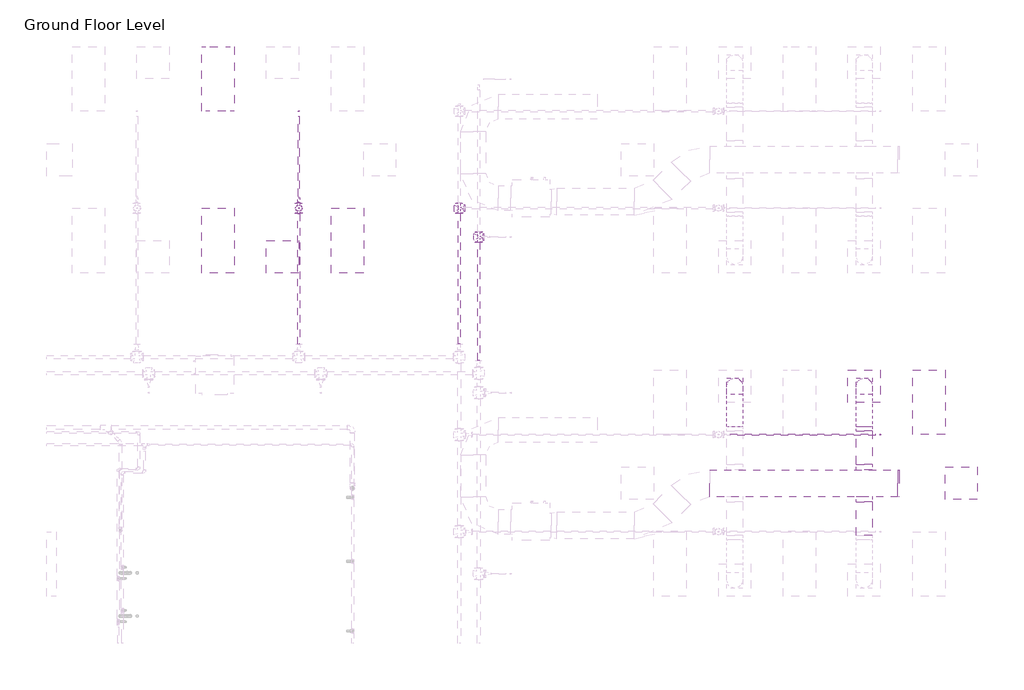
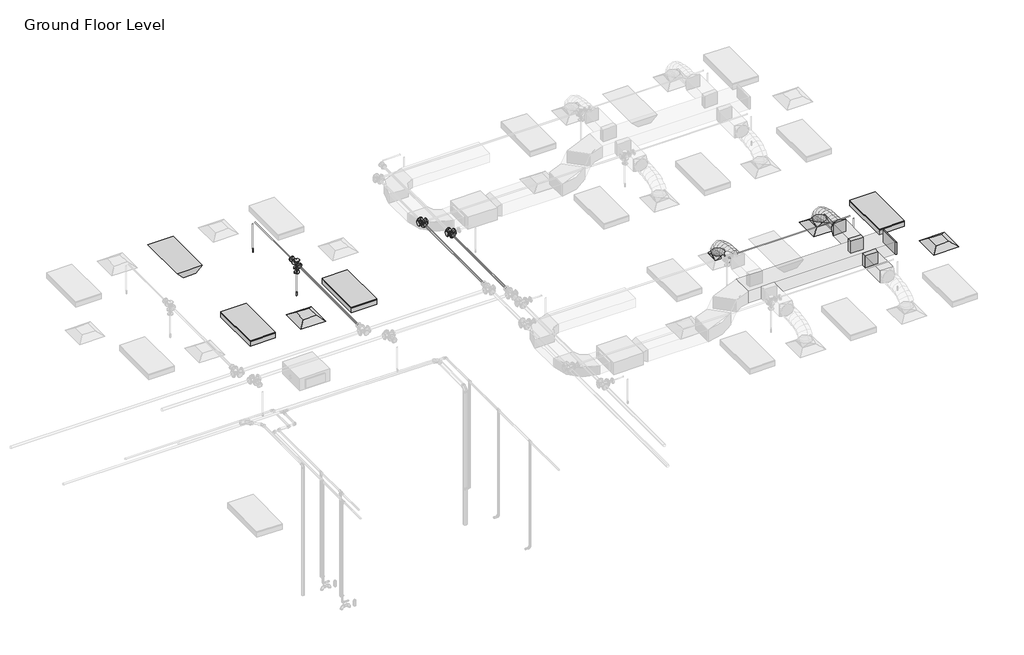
# One storey, part 63 of 66: 8 pipe segments, 6 duct fittings, 5 duct segments, 5 pipe fittings, 4 light fixtures, 3 air terminals, 3 fire suppression terminals.
"""IFC4 building model written with IfcOpenShell, lengths in millimetres."""

from ifc_helpers import new_model, si_unit, point, frame, frame_2d, origin, place, context, project, spatial, polyline, circle_curve, ellipse_curve, trimmed, segment, composite_curve, outline, extrude, transform, mapped, element, save
from ifc_brep_helpers import plane_surface, cylinder_surface, advanced_brep
from components import m_return_diffuser_600_x_600_face_300_x_300_connection_ff221211, m_rectangular_endcap_standard_72d4d00d, m_rectangular_takeoff_standard_cb0ccb98, m_rectangular_takeoff_standard_2be5eba1, m_rectangular_to_round_transition_angle_45_degree_641efff0, m_sprinkler_dry_pendent_hosted_15_mm_dry_pendent_9bda8e11, m_emergency_recessed_lighting_fixture_600x1200_277_5b10b25d, m_troffer_light_parabolic_rectangular1_0600x1200mm_4_lamp_86473d4a, m_reducer_flanged_cs_class_150_standard_d42b2106, m_tee_round_base_flanged_cs_class_150_standard_7e5987a1

model = new_model("IFC4")

# Units and contexts
model_context = context("Model", 3, world=origin())
ifc_project = project(units=[si_unit("LENGTHUNIT", "METRE", prefix="MILLI")], contexts=[model_context])

# Site, building, storey
site = spatial("IfcSite", under=ifc_project)
building = spatial("IfcBuilding", under=site)
storey = spatial("IfcBuildingStorey", under=building, Name="Ground Floor Level", Elevation=900.0)

# Air terminals
placement = place(None, origin())
m_return_diffuser_600_x_600_face_300_x_300_connection_shape = m_return_diffuser_600_x_600_face_300_x_300_connection_ff221211(model_context)
element("IfcAirTerminal", 1, ObjectType="M_Return Diffuser : 600 x 600 Face 300 x 300 Connection", at=placement, inside=storey, context=model_context, shape_type="MappedRepresentation", body=[
    mapped(m_return_diffuser_600_x_600_face_300_x_300_connection_shape, transform((14942.7672395, 12735.2153534, 3650.0), x_axis=(1.0, 0.0, 0.0), y_axis=(0.0, 1.0, 0.0), z_axis=(0.0, 0.0, 1.0))),
])
element("IfcAirTerminal", 2, ObjectType="M_Supply Diffuser : 600 x 600 Face 300 x 300 Connection", at=placement, inside=storey, context=model_context, shape_type="MappedRepresentation", body=[
    mapped(m_return_diffuser_600_x_600_face_300_x_300_connection_shape, transform((13142.7672395, 14535.2153534, 3650.0), x_axis=(1.0, 0.0, 0.0), y_axis=(0.0, 1.0, 0.0), z_axis=(0.0, 0.0, 1.0))),
])
element("IfcAirTerminal", 3, ObjectType="M_Supply Diffuser : 600 x 600 Face 300 x 300 Connection", at=placement, inside=storey, context=model_context, shape_type="MappedRepresentation", body=[
    mapped(m_return_diffuser_600_x_600_face_300_x_300_connection_shape, transform((2362.7672395, 16935.2153534, 3650.0), x_axis=(1.0, 0.0, 0.0), y_axis=(0.0, 1.0, 0.0), z_axis=(0.0, 0.0, 1.0))),
])

# Duct fittings
m_rectangular_endcap_standard_shape = m_rectangular_endcap_standard_72d4d00d(model_context)
element("IfcDuctFitting", 4, ObjectType="M_Rectangular Endcap : Standard", at=placement, inside=storey, context=model_context, shape_type="MappedRepresentation", body=[
    mapped(m_rectangular_endcap_standard_shape, transform((13766.7301365, 12735.2153534, 4100.0), x_axis=(1.0, 0.0, 0.0), y_axis=(0.0, 1.0, 0.0), z_axis=(0.0, 0.0, 1.0))),
])
m_rectangular_takeoff_standard_shape = m_rectangular_takeoff_standard_cb0ccb98(model_context)
element("IfcDuctFitting", 5, ObjectType="M_Rectangular Takeoff : Standard", at=placement, inside=storey, context=model_context, shape_type="MappedRepresentation", body=[
    mapped(m_rectangular_takeoff_standard_shape, transform((13142.7672395, 12985.2153534, 4100.0), x_axis=(0.0, 1.0, 0.0), y_axis=(1.0, 0.0, 0.0), z_axis=(0.0, 0.0, -1.0))),
])
m_rectangular_takeoff_standard_2_shape = m_rectangular_takeoff_standard_2be5eba1(model_context)
element("IfcDuctFitting", 6, ObjectType="M_Rectangular Takeoff : Standard", at=placement, inside=storey, context=model_context, shape_type="MappedRepresentation", body=[
    mapped(m_rectangular_takeoff_standard_2_shape, transform((13142.7672395, 12485.2153534, 4100.0), x_axis=(0.0, -1.0, 0.0), y_axis=(-1.0, 0.0, 0.0), z_axis=(0.0, 0.0, -1.0))),
])
m_rectangular_to_round_transition_angle_45_degree_shape = m_rectangular_to_round_transition_angle_45_degree_641efff0(model_context)
element("IfcDuctFitting", 7, ObjectType="M_Rectangular to Round Transition - Angle : 45 Degree", at=placement, inside=storey, context=model_context, shape_type="MappedRepresentation", body=[
    mapped(m_rectangular_to_round_transition_angle_45_degree_shape, transform((10742.7672395, 14535.2153534, 3751.6), x_axis=(0.0, 0.0, 1.0), y_axis=(-1.0, 0.0, 0.0), z_axis=(0.0, -1.0, 0.0))),
])
element("IfcDuctFitting", 8, ObjectType="M_Rectangular to Round Transition - Angle : 45 Degree", at=placement, inside=storey, context=model_context, shape_type="MappedRepresentation", body=[
    mapped(m_rectangular_to_round_transition_angle_45_degree_shape, transform((13142.7672395, 14535.2153534, 3751.6), x_axis=(0.0, 0.0, 1.0), y_axis=(-1.0, 0.0, 0.0), z_axis=(0.0, -1.0, 0.0))),
])
element("IfcDuctFitting", 9, ObjectType="M_Rectangular to Round Transition - Angle : 45 Degree", at=placement, inside=storey, context=model_context, shape_type="MappedRepresentation", body=[
    mapped(m_rectangular_to_round_transition_angle_45_degree_shape, transform((13142.7672395, 13707.8794221, 4100.0), x_axis=(0.0, 1.0, 0.0), y_axis=(-1.0, 0.0, 0.0), z_axis=(0.0, 0.0, 1.0))),
])

# Duct segments
element("IfcDuctSegment", 10, ObjectType="Flex - Round", at=placement, inside=storey, context=model_context, shape_type="AdvancedBrep", body=[
    advanced_brep(
    [(10892.7672395, 14535.2153534, 3826.6), (10742.7672395, 14385.2153534, 3826.6), (10592.7672395, 14535.2153534, 3826.6), (10742.7672395, 14685.2153534, 3826.6), (10892.7672395, 14535.2153534, 3857.9377114), (10742.7672395, 14385.2153534, 3832.2944892), (10592.7672395, 14535.2153534, 3857.9377114), (10742.7672395, 14685.2153534, 3883.5809337), (10892.7672395, 14518.1994208, 3906.2505728), (10742.7672395, 14384.4614419, 3834.435049), (10592.7672395, 14518.1994208, 3906.2505728), (10742.7672395, 14651.9373998, 3978.0660967), (10892.7672395, 14471.0155405, 3968.7113131), (10742.7672395, 14366.8096412, 3857.8020236), (10592.7672395, 14471.0155405, 3968.7113131), (10742.7672395, 14575.2214397, 4079.6206026), (10892.7672395, 14399.4595883, 4016.0700639), (10742.7672395, 14330.5255327, 3881.8163788), (10592.7672395, 14399.4595883, 4016.0700639), (10742.7672395, 14468.3936439, 4150.3237489), (10892.7672395, 14309.3274403, 4050.4146682), (10742.7672395, 14265.7666771, 3906.4925606), (10592.7672395, 14309.3274403, 4050.4146682), (10742.7672395, 14352.8882035, 4194.3367758), (10892.7672395, 14206.4149725, 4073.8329691), (10742.7672395, 14179.8540485, 3926.0424542), (10592.7672395, 14206.4149725, 4073.8329691), (10742.7672395, 14232.9758965, 4221.6234841), (10892.7672395, 14096.5180607, 4088.4128097), (10742.7672395, 14081.3671584, 3939.1085462), (10592.7672395, 14096.5180607, 4088.4128097), (10742.7672395, 14111.6689631, 4237.7170733), (10892.7672395, 13985.4325811, 4096.242033), (10742.7672395, 13977.9272529, 3946.398915), (10592.7672395, 13985.4325811, 4096.242033), (10742.7672395, 13992.9379093, 4246.085151), (10892.7672395, 13878.9544096, 4099.4084821), (10742.7672395, 13876.2629165, 3949.4222102), (10592.7672395, 13878.9544096, 4099.4084821), (10742.7672395, 13881.6459027, 4249.394754), (10892.7672395, 13782.8794221, 4100.0), (10742.7672395, 13783.8029299, 4249.9971571), (10592.7672395, 13782.8794221, 4100.0), (10742.7672395, 13781.9559143, 3950.0028429)],
    [
        (0, 1, circle_curve(frame((10742.7672395, 14535.2153534, 3826.6), z_axis=(0.0, 0.0, -1.0), x_axis=(1.0, 0.0, 0.0)), 150.0)),
        (1, 2, circle_curve(frame((10742.7672395, 14535.2153534, 3826.6), z_axis=(0.0, 0.0, -1.0), x_axis=(1.0, 0.0, 0.0)), 150.0)),
        (2, 3, circle_curve(frame((10742.7672395, 14535.2153534, 3826.6), z_axis=(0.0, 0.0, -1.0), x_axis=(1.0, 0.0, 0.0)), 150.0)),
        (3, 0, circle_curve(frame((10742.7672395, 14535.2153534, 3826.6), z_axis=(0.0, 0.0, -1.0), x_axis=(1.0, 0.0, 0.0)), 150.0)),
        (0, 4),
        (4, 5, ellipse_curve(frame((10742.7672395, 14535.2153534, 3857.9377114), z_axis=(0.0, 0.16851014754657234, -0.9856999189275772), x_axis=(0.0, -0.9856999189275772, -0.1685101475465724)), 152.176131, 150.0)),
        (5, 1),
        (5, 6, ellipse_curve(frame((10742.7672395, 14535.2153534, 3857.9377114), z_axis=(0.0, 0.16851014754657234, -0.9856999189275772), x_axis=(0.0, -0.9856999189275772, -0.1685101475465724)), 152.176131, 150.0)),
        (6, 2),
        (6, 7, ellipse_curve(frame((10742.7672395, 14535.2153534, 3857.9377114), z_axis=(0.0, 0.16851014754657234, -0.9856999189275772), x_axis=(0.0, -0.9856999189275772, -0.1685101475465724)), 152.176131, 150.0)),
        (7, 3),
        (7, 4, ellipse_curve(frame((10742.7672395, 14535.2153534, 3857.9377114), z_axis=(0.0, 0.16851014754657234, -0.9856999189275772), x_axis=(0.0, -0.9856999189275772, -0.1685101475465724)), 152.176131, 150.0)),
        (4, 8),
        (8, 9, ellipse_curve(frame((10742.7672395, 14518.1994208, 3906.2505728), z_axis=(0.0, 0.47309225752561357, -0.8810128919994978), x_axis=(0.0, -0.8810128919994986, -0.47309225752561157)), 151.8002519, 150.0)),
        (9, 5),
        (9, 10, ellipse_curve(frame((10742.7672395, 14518.1994208, 3906.2505728), z_axis=(0.0, 0.47309225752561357, -0.8810128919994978), x_axis=(0.0, -0.8810128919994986, -0.47309225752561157)), 151.8002519, 150.0)),
        (10, 6),
        (10, 11, ellipse_curve(frame((10742.7672395, 14518.1994208, 3906.2505728), z_axis=(0.0, 0.47309225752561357, -0.8810128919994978), x_axis=(0.0, -0.8810128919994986, -0.47309225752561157)), 151.8002519, 150.0)),
        (11, 7),
        (11, 8, ellipse_curve(frame((10742.7672395, 14518.1994208, 3906.2505728), z_axis=(0.0, 0.47309225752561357, -0.8810128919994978), x_axis=(0.0, -0.8810128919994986, -0.47309225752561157)), 151.8002519, 150.0)),
        (8, 12),
        (12, 13, ellipse_curve(frame((10742.7672395, 14471.0155405, 3968.7113131), z_axis=(0.0, 0.7287877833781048, -0.6847396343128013), x_axis=(0.0, -0.6847396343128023, -0.7287877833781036)), 152.1832446, 150.0)),
        (13, 9),
        (13, 14, ellipse_curve(frame((10742.7672395, 14471.0155405, 3968.7113131), z_axis=(0.0, 0.7287877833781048, -0.6847396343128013), x_axis=(0.0, -0.6847396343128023, -0.7287877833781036)), 152.1832446, 150.0)),
        (14, 10),
        (14, 15, ellipse_curve(frame((10742.7672395, 14471.0155405, 3968.7113131), z_axis=(0.0, 0.7287877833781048, -0.6847396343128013), x_axis=(0.0, -0.6847396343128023, -0.7287877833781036)), 152.1832446, 150.0)),
        (15, 11),
        (15, 12, ellipse_curve(frame((10742.7672395, 14471.0155405, 3968.7113131), z_axis=(0.0, 0.7287877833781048, -0.6847396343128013), x_axis=(0.0, -0.6847396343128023, -0.7287877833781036)), 152.1832446, 150.0)),
        (12, 16),
        (16, 17, ellipse_curve(frame((10742.7672395, 14399.4595883, 4016.0700639), z_axis=(0.0, 0.8895859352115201, -0.45676784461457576), x_axis=(0.0, -0.45676784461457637, -0.8895859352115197)), 150.91705, 150.0)),
        (17, 13),
        (17, 18, ellipse_curve(frame((10742.7672395, 14399.4595883, 4016.0700639), z_axis=(0.0, 0.8895859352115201, -0.45676784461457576), x_axis=(0.0, -0.45676784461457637, -0.8895859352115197)), 150.91705, 150.0)),
        (18, 14),
        (18, 19, ellipse_curve(frame((10742.7672395, 14399.4595883, 4016.0700639), z_axis=(0.0, 0.8895859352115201, -0.45676784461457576), x_axis=(0.0, -0.45676784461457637, -0.8895859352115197)), 150.91705, 150.0)),
        (19, 15),
        (19, 16, ellipse_curve(frame((10742.7672395, 14399.4595883, 4016.0700639), z_axis=(0.0, 0.8895859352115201, -0.45676784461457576), x_axis=(0.0, -0.45676784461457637, -0.8895859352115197)), 150.91705, 150.0)),
        (16, 20),
        (20, 21, ellipse_curve(frame((10742.7672395, 14309.3274403, 4050.4146682), z_axis=(0.0, 0.9571203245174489, -0.2896906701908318), x_axis=(0.0, -0.28969067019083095, -0.9571203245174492)), 150.369921, 150.0)),
        (21, 17),
        (21, 22, ellipse_curve(frame((10742.7672395, 14309.3274403, 4050.4146682), z_axis=(0.0, 0.9571203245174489, -0.2896906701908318), x_axis=(0.0, -0.28969067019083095, -0.9571203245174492)), 150.369921, 150.0)),
        (22, 18),
        (22, 23, ellipse_curve(frame((10742.7672395, 14309.3274403, 4050.4146682), z_axis=(0.0, 0.9571203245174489, -0.2896906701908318), x_axis=(0.0, -0.28969067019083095, -0.9571203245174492)), 150.369921, 150.0)),
        (23, 19),
        (23, 20, ellipse_curve(frame((10742.7672395, 14309.3274403, 4050.4146682), z_axis=(0.0, 0.9571203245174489, -0.2896906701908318), x_axis=(0.0, -0.28969067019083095, -0.9571203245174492)), 150.369921, 150.0)),
        (20, 24),
        (24, 25, ellipse_curve(frame((10742.7672395, 14206.4149725, 4073.8329691), z_axis=(0.0, 0.9842313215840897, -0.17688613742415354), x_axis=(0.0, -0.1768861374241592, -0.9842313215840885)), 150.1583131, 150.0)),
        (25, 21),
        (25, 26, ellipse_curve(frame((10742.7672395, 14206.4149725, 4073.8329691), z_axis=(0.0, 0.9842313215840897, -0.17688613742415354), x_axis=(0.0, -0.1768861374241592, -0.9842313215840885)), 150.1583131, 150.0)),
        (26, 22),
        (26, 27, ellipse_curve(frame((10742.7672395, 14206.4149725, 4073.8329691), z_axis=(0.0, 0.9842313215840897, -0.17688613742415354), x_axis=(0.0, -0.1768861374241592, -0.9842313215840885)), 150.1583131, 150.0)),
        (27, 23),
        (27, 24, ellipse_curve(frame((10742.7672395, 14206.4149725, 4073.8329691), z_axis=(0.0, 0.9842313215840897, -0.17688613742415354), x_axis=(0.0, -0.1768861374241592, -0.9842313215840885)), 150.1583131, 150.0)),
        (24, 28),
        (28, 29, ellipse_curve(frame((10742.7672395, 14096.5180607, 4088.4128097), z_axis=(0.0, 0.9948906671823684, -0.10095821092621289), x_axis=(0.0, -0.10095821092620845, -0.9948906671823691)), 150.0710264, 150.0)),
        (29, 25),
        (29, 30, ellipse_curve(frame((10742.7672395, 14096.5180607, 4088.4128097), z_axis=(0.0, 0.9948906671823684, -0.10095821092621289), x_axis=(0.0, -0.10095821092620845, -0.9948906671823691)), 150.0710264, 150.0)),
        (30, 26),
        (30, 31, ellipse_curve(frame((10742.7672395, 14096.5180607, 4088.4128097), z_axis=(0.0, 0.9948906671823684, -0.10095821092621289), x_axis=(0.0, -0.10095821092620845, -0.9948906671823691)), 150.0710264, 150.0)),
        (31, 27),
        (31, 28, ellipse_curve(frame((10742.7672395, 14096.5180607, 4088.4128097), z_axis=(0.0, 0.9948906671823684, -0.10095821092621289), x_axis=(0.0, -0.10095821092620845, -0.9948906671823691)), 150.0710264, 150.0)),
        (28, 32),
        (32, 33, ellipse_curve(frame((10742.7672395, 13985.4325811, 4096.242033), z_axis=(0.0, 0.9987479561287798, -0.050025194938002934), x_axis=(0.0, -0.05002519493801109, -0.9987479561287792)), 150.0309634, 150.0)),
        (33, 29),
        (33, 34, ellipse_curve(frame((10742.7672395, 13985.4325811, 4096.242033), z_axis=(0.0, 0.9987479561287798, -0.050025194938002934), x_axis=(0.0, -0.05002519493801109, -0.9987479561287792)), 150.0309634, 150.0)),
        (34, 30),
        (34, 35, ellipse_curve(frame((10742.7672395, 13985.4325811, 4096.242033), z_axis=(0.0, 0.9987479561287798, -0.050025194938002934), x_axis=(0.0, -0.05002519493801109, -0.9987479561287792)), 150.0309634, 150.0)),
        (35, 31),
        (35, 32, ellipse_curve(frame((10742.7672395, 13985.4325811, 4096.242033), z_axis=(0.0, 0.9987479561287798, -0.050025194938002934), x_axis=(0.0, -0.05002519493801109, -0.9987479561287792)), 150.0309634, 150.0)),
        (32, 36),
        (36, 37, ellipse_curve(frame((10742.7672395, 13878.9544096, 4099.4084821), z_axis=(0.0, 0.9998390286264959, -0.017942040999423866), x_axis=(0.0, -0.017942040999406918, -0.9998390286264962)), 150.0104193, 150.0)),
        (37, 33),
        (37, 38, ellipse_curve(frame((10742.7672395, 13878.9544096, 4099.4084821), z_axis=(0.0, 0.9998390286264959, -0.017942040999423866), x_axis=(0.0, -0.017942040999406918, -0.9998390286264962)), 150.0104193, 150.0)),
        (38, 34),
        (38, 39, ellipse_curve(frame((10742.7672395, 13878.9544096, 4099.4084821), z_axis=(0.0, 0.9998390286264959, -0.017942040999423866), x_axis=(0.0, -0.017942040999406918, -0.9998390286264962)), 150.0104193, 150.0)),
        (39, 35),
        (39, 36, ellipse_curve(frame((10742.7672395, 13878.9544096, 4099.4084821), z_axis=(0.0, 0.9998390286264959, -0.017942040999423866), x_axis=(0.0, -0.017942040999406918, -0.9998390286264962)), 150.0104193, 150.0)),
        (40, 41, circle_curve(frame((10742.7672395, 13782.8794221, 4100.0), z_axis=(0.0, -0.9999810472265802, 0.006156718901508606), x_axis=(1.0, 0.0, 0.0)), 150.0)),
        (41, 42, circle_curve(frame((10742.7672395, 13782.8794221, 4100.0), z_axis=(0.0, -0.9999810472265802, 0.006156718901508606), x_axis=(1.0, 0.0, 0.0)), 150.0)),
        (42, 43, circle_curve(frame((10742.7672395, 13782.8794221, 4100.0), z_axis=(0.0, -0.9999810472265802, 0.006156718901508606), x_axis=(1.0, 0.0, 0.0)), 150.0)),
        (43, 40, circle_curve(frame((10742.7672395, 13782.8794221, 4100.0), z_axis=(0.0, -0.9999810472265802, 0.006156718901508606), x_axis=(1.0, 0.0, 0.0)), 150.0)),
        (36, 40),
        (43, 37),
        (42, 38),
        (41, 39),
    ],
    [
        plane_surface(frame((10742.7672395, 14385.2153534, 3826.6), z_axis=(0.0, 0.0, -1.0), x_axis=(1.0, 0.0, 0.0))),
        cylinder_surface(frame((10742.7672395, 14535.2153534, 3826.6), z_axis=(0.0, 0.0, -1.0), x_axis=(1.0, 0.0, 0.0)), 150.0),
        cylinder_surface(frame((10742.7672395, 14535.2153534, 3857.9377114), z_axis=(0.0, 0.3322008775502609, -0.9432086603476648), x_axis=(1.0, 0.0, 0.0)), 150.0),
        cylinder_surface(frame((10742.7672395, 14518.1994208, 3906.2505728), z_axis=(0.0, 0.6027625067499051, -0.7979206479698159), x_axis=(1.0, 0.0, 0.0)), 150.0),
        cylinder_surface(frame((10742.7672395, 14471.0155405, 3968.7113131), z_axis=(0.0, 0.833902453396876, -0.5519118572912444), x_axis=(1.0, 0.0, 0.0)), 150.0),
        cylinder_surface(frame((10742.7672395, 14399.4595883, 4016.0700639), z_axis=(0.0, 0.9344582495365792, -0.35607271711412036), x_axis=(1.0, 0.0, 0.0)), 150.0),
        cylinder_surface(frame((10742.7672395, 14309.3274403, 4050.4146682), z_axis=(0.0, 0.9750732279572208, -0.22188330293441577), x_axis=(1.0, 0.0, 0.0)), 150.0),
        cylinder_surface(frame((10742.7672395, 14206.4149725, 4073.8329691), z_axis=(0.0, 0.9913140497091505, -0.131515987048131), x_axis=(1.0, 0.0, 0.0)), 150.0),
        cylinder_surface(frame((10742.7672395, 14096.5180607, 4088.4128097), z_axis=(0.0, 0.9975255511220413, -0.07030487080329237), x_axis=(1.0, 0.0, 0.0)), 150.0),
        cylinder_surface(frame((10742.7672395, 13985.4325811, 4096.242033), z_axis=(0.0, 0.9995581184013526, -0.029724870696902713), x_axis=(1.0, 0.0, 0.0)), 150.0),
        plane_surface(frame((10742.7672395, 13781.9559143, 3950.0028429), z_axis=(0.0, -0.9999810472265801, 0.0061567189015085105), x_axis=(1.0, 0.0, 0.0))),
        cylinder_surface(frame((10742.7672395, 13878.9544096, 4099.4084821), z_axis=(0.0, 0.9999810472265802, -0.006156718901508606), x_axis=(1.0, 0.0, 0.0)), 150.0),
    ],
    [
        (0, [[1, 2, 3, 4]]),
        (1, [[-1, 5, 6, 7]]),
        (1, [[-2, -7, 8, 9]]),
        (1, [[-3, -9, 10, 11]]),
        (1, [[-4, -11, 12, -5]]),
        (2, [[-6, 13, 14, 15]]),
        (2, [[-8, -15, 16, 17]]),
        (2, [[-10, -17, 18, 19]]),
        (2, [[-12, -19, 20, -13]]),
        (3, [[-14, 21, 22, 23]]),
        (3, [[-16, -23, 24, 25]]),
        (3, [[-18, -25, 26, 27]]),
        (3, [[-20, -27, 28, -21]]),
        (4, [[-22, 29, 30, 31]]),
        (4, [[-24, -31, 32, 33]]),
        (4, [[-26, -33, 34, 35]]),
        (4, [[-28, -35, 36, -29]]),
        (5, [[-30, 37, 38, 39]]),
        (5, [[-32, -39, 40, 41]]),
        (5, [[-34, -41, 42, 43]]),
        (5, [[-36, -43, 44, -37]]),
        (6, [[-38, 45, 46, 47]]),
        (6, [[-40, -47, 48, 49]]),
        (6, [[-42, -49, 50, 51]]),
        (6, [[-44, -51, 52, -45]]),
        (7, [[-46, 53, 54, 55]]),
        (7, [[-48, -55, 56, 57]]),
        (7, [[-50, -57, 58, 59]]),
        (7, [[-52, -59, 60, -53]]),
        (8, [[-54, 61, 62, 63]]),
        (8, [[-56, -63, 64, 65]]),
        (8, [[-58, -65, 66, 67]]),
        (8, [[-60, -67, 68, -61]]),
        (9, [[-62, 69, 70, 71]]),
        (9, [[-64, -71, 72, 73]]),
        (9, [[-66, -73, 74, 75]]),
        (9, [[-68, -75, 76, -69]]),
        (10, [[77, 78, 79, 80]]),
        (11, [[-70, 81, -80, 82]]),
        (11, [[-72, -82, -79, 83]]),
        (11, [[-74, -83, -78, 84]]),
        (11, [[-76, -84, -77, -81]]),
    ],
),
])
element("IfcDuctSegment", 11, ObjectType="Flex - Round", at=placement, inside=storey, context=model_context, shape_type="AdvancedBrep", body=[
    advanced_brep(
    [(13292.7672395, 14535.2153534, 3826.6), (13142.7672395, 14385.2153534, 3826.6), (12992.7672395, 14535.2153534, 3826.6), (13142.7672395, 14685.2153534, 3826.6), (13292.7672395, 14535.2153534, 3857.9377114), (13142.7672395, 14385.2153534, 3832.2944892), (12992.7672395, 14535.2153534, 3857.9377114), (13142.7672395, 14685.2153534, 3883.5809337), (13292.7672395, 14518.1994208, 3906.2505728), (13142.7672395, 14384.4614419, 3834.435049), (12992.7672395, 14518.1994208, 3906.2505728), (13142.7672395, 14651.9373998, 3978.0660967), (13292.7672395, 14471.0155405, 3968.7113131), (13142.7672395, 14366.8096412, 3857.8020236), (12992.7672395, 14471.0155405, 3968.7113131), (13142.7672395, 14575.2214397, 4079.6206026), (13292.7672395, 14399.4595883, 4016.0700639), (13142.7672395, 14330.5255327, 3881.8163788), (12992.7672395, 14399.4595883, 4016.0700639), (13142.7672395, 14468.3936439, 4150.3237489), (13292.7672395, 14309.3274403, 4050.4146682), (13142.7672395, 14265.7666771, 3906.4925606), (12992.7672395, 14309.3274403, 4050.4146682), (13142.7672395, 14352.8882035, 4194.3367758), (13292.7672395, 14206.4149725, 4073.8329691), (13142.7672395, 14179.8540485, 3926.0424542), (12992.7672395, 14206.4149725, 4073.8329691), (13142.7672395, 14232.9758965, 4221.6234841), (13292.7672395, 14096.5180607, 4088.4128097), (13142.7672395, 14081.3671584, 3939.1085462), (12992.7672395, 14096.5180607, 4088.4128097), (13142.7672395, 14111.6689631, 4237.7170733), (13292.7672395, 13985.4325811, 4096.242033), (13142.7672395, 13977.9272529, 3946.398915), (12992.7672395, 13985.4325811, 4096.242033), (13142.7672395, 13992.9379093, 4246.085151), (13292.7672395, 13878.9544096, 4099.4084821), (13142.7672395, 13876.2629165, 3949.4222102), (12992.7672395, 13878.9544096, 4099.4084821), (13142.7672395, 13881.6459027, 4249.394754), (13292.7672395, 13782.8794221, 4100.0), (13142.7672395, 13783.8029299, 4249.9971571), (12992.7672395, 13782.8794221, 4100.0), (13142.7672395, 13781.9559143, 3950.0028429)],
    [
        (0, 1, circle_curve(frame((13142.7672395, 14535.2153534, 3826.6), z_axis=(0.0, 0.0, -1.0), x_axis=(1.0, 0.0, 0.0)), 150.0)),
        (1, 2, circle_curve(frame((13142.7672395, 14535.2153534, 3826.6), z_axis=(0.0, 0.0, -1.0), x_axis=(1.0, 0.0, 0.0)), 150.0)),
        (2, 3, circle_curve(frame((13142.7672395, 14535.2153534, 3826.6), z_axis=(0.0, 0.0, -1.0), x_axis=(1.0, 0.0, 0.0)), 150.0)),
        (3, 0, circle_curve(frame((13142.7672395, 14535.2153534, 3826.6), z_axis=(0.0, 0.0, -1.0), x_axis=(1.0, 0.0, 0.0)), 150.0)),
        (0, 4),
        (4, 5, ellipse_curve(frame((13142.7672395, 14535.2153534, 3857.9377114), z_axis=(0.0, 0.16851014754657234, -0.9856999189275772), x_axis=(0.0, -0.9856999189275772, -0.1685101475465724)), 152.176131, 150.0)),
        (5, 1),
        (5, 6, ellipse_curve(frame((13142.7672395, 14535.2153534, 3857.9377114), z_axis=(0.0, 0.16851014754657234, -0.9856999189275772), x_axis=(0.0, -0.9856999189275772, -0.1685101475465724)), 152.176131, 150.0)),
        (6, 2),
        (6, 7, ellipse_curve(frame((13142.7672395, 14535.2153534, 3857.9377114), z_axis=(0.0, 0.16851014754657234, -0.9856999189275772), x_axis=(0.0, -0.9856999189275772, -0.1685101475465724)), 152.176131, 150.0)),
        (7, 3),
        (7, 4, ellipse_curve(frame((13142.7672395, 14535.2153534, 3857.9377114), z_axis=(0.0, 0.16851014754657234, -0.9856999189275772), x_axis=(0.0, -0.9856999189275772, -0.1685101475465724)), 152.176131, 150.0)),
        (4, 8),
        (8, 9, ellipse_curve(frame((13142.7672395, 14518.1994208, 3906.2505728), z_axis=(0.0, 0.47309225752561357, -0.8810128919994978), x_axis=(0.0, -0.8810128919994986, -0.47309225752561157)), 151.8002519, 150.0)),
        (9, 5),
        (9, 10, ellipse_curve(frame((13142.7672395, 14518.1994208, 3906.2505728), z_axis=(0.0, 0.47309225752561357, -0.8810128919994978), x_axis=(0.0, -0.8810128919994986, -0.47309225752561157)), 151.8002519, 150.0)),
        (10, 6),
        (10, 11, ellipse_curve(frame((13142.7672395, 14518.1994208, 3906.2505728), z_axis=(0.0, 0.47309225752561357, -0.8810128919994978), x_axis=(0.0, -0.8810128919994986, -0.47309225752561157)), 151.8002519, 150.0)),
        (11, 7),
        (11, 8, ellipse_curve(frame((13142.7672395, 14518.1994208, 3906.2505728), z_axis=(0.0, 0.47309225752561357, -0.8810128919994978), x_axis=(0.0, -0.8810128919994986, -0.47309225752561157)), 151.8002519, 150.0)),
        (8, 12),
        (12, 13, ellipse_curve(frame((13142.7672395, 14471.0155405, 3968.7113131), z_axis=(0.0, 0.7287877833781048, -0.6847396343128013), x_axis=(0.0, -0.6847396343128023, -0.7287877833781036)), 152.1832446, 150.0)),
        (13, 9),
        (13, 14, ellipse_curve(frame((13142.7672395, 14471.0155405, 3968.7113131), z_axis=(0.0, 0.7287877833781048, -0.6847396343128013), x_axis=(0.0, -0.6847396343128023, -0.7287877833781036)), 152.1832446, 150.0)),
        (14, 10),
        (14, 15, ellipse_curve(frame((13142.7672395, 14471.0155405, 3968.7113131), z_axis=(0.0, 0.7287877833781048, -0.6847396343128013), x_axis=(0.0, -0.6847396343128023, -0.7287877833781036)), 152.1832446, 150.0)),
        (15, 11),
        (15, 12, ellipse_curve(frame((13142.7672395, 14471.0155405, 3968.7113131), z_axis=(0.0, 0.7287877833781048, -0.6847396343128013), x_axis=(0.0, -0.6847396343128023, -0.7287877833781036)), 152.1832446, 150.0)),
        (12, 16),
        (16, 17, ellipse_curve(frame((13142.7672395, 14399.4595883, 4016.0700639), z_axis=(0.0, 0.8895859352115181, -0.4567678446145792), x_axis=(0.0, -0.4567678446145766, -0.8895859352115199)), 150.91705, 150.0)),
        (17, 13),
        (17, 18, ellipse_curve(frame((13142.7672395, 14399.4595883, 4016.0700639), z_axis=(0.0, 0.8895859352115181, -0.4567678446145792), x_axis=(0.0, -0.4567678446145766, -0.8895859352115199)), 150.91705, 150.0)),
        (18, 14),
        (18, 19, ellipse_curve(frame((13142.7672395, 14399.4595883, 4016.0700639), z_axis=(0.0, 0.8895859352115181, -0.4567678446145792), x_axis=(0.0, -0.4567678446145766, -0.8895859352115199)), 150.91705, 150.0)),
        (19, 15),
        (19, 16, ellipse_curve(frame((13142.7672395, 14399.4595883, 4016.0700639), z_axis=(0.0, 0.8895859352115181, -0.4567678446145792), x_axis=(0.0, -0.4567678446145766, -0.8895859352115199)), 150.91705, 150.0)),
        (16, 20),
        (20, 21, ellipse_curve(frame((13142.7672395, 14309.3274403, 4050.4146682), z_axis=(0.0, 0.9571203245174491, -0.2896906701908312), x_axis=(0.0, -0.2896906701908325, -0.9571203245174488)), 150.369921, 150.0)),
        (21, 17),
        (21, 22, ellipse_curve(frame((13142.7672395, 14309.3274403, 4050.4146682), z_axis=(0.0, 0.9571203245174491, -0.2896906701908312), x_axis=(0.0, -0.2896906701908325, -0.9571203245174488)), 150.369921, 150.0)),
        (22, 18),
        (22, 23, ellipse_curve(frame((13142.7672395, 14309.3274403, 4050.4146682), z_axis=(0.0, 0.9571203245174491, -0.2896906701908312), x_axis=(0.0, -0.2896906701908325, -0.9571203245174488)), 150.369921, 150.0)),
        (23, 19),
        (23, 20, ellipse_curve(frame((13142.7672395, 14309.3274403, 4050.4146682), z_axis=(0.0, 0.9571203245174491, -0.2896906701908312), x_axis=(0.0, -0.2896906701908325, -0.9571203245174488)), 150.369921, 150.0)),
        (20, 24),
        (24, 25, ellipse_curve(frame((13142.7672395, 14206.4149725, 4073.8329691), z_axis=(0.0, 0.9842313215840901, -0.17688613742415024), x_axis=(0.0, -0.1768861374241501, -0.9842313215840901)), 150.1583131, 150.0)),
        (25, 21),
        (25, 26, ellipse_curve(frame((13142.7672395, 14206.4149725, 4073.8329691), z_axis=(0.0, 0.9842313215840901, -0.17688613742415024), x_axis=(0.0, -0.1768861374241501, -0.9842313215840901)), 150.1583131, 150.0)),
        (26, 22),
        (26, 27, ellipse_curve(frame((13142.7672395, 14206.4149725, 4073.8329691), z_axis=(0.0, 0.9842313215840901, -0.17688613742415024), x_axis=(0.0, -0.1768861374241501, -0.9842313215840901)), 150.1583131, 150.0)),
        (27, 23),
        (27, 24, ellipse_curve(frame((13142.7672395, 14206.4149725, 4073.8329691), z_axis=(0.0, 0.9842313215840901, -0.17688613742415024), x_axis=(0.0, -0.1768861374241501, -0.9842313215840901)), 150.1583131, 150.0)),
        (24, 28),
        (28, 29, ellipse_curve(frame((13142.7672395, 14096.5180607, 4088.4128097), z_axis=(0.0, 0.9948906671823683, -0.10095821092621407), x_axis=(0.0, -0.10095821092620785, -0.994890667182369)), 150.0710264, 150.0)),
        (29, 25),
        (29, 30, ellipse_curve(frame((13142.7672395, 14096.5180607, 4088.4128097), z_axis=(0.0, 0.9948906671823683, -0.10095821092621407), x_axis=(0.0, -0.10095821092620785, -0.994890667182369)), 150.0710264, 150.0)),
        (30, 26),
        (30, 31, ellipse_curve(frame((13142.7672395, 14096.5180607, 4088.4128097), z_axis=(0.0, 0.9948906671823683, -0.10095821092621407), x_axis=(0.0, -0.10095821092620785, -0.994890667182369)), 150.0710264, 150.0)),
        (31, 27),
        (31, 28, ellipse_curve(frame((13142.7672395, 14096.5180607, 4088.4128097), z_axis=(0.0, 0.9948906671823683, -0.10095821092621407), x_axis=(0.0, -0.10095821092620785, -0.994890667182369)), 150.0710264, 150.0)),
        (28, 32),
        (32, 33, ellipse_curve(frame((13142.7672395, 13985.4325811, 4096.242033), z_axis=(0.0, 0.9987479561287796, -0.05002519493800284), x_axis=(0.0, -0.05002519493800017, -0.9987479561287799)), 150.0309634, 150.0)),
        (33, 29),
        (33, 34, ellipse_curve(frame((13142.7672395, 13985.4325811, 4096.242033), z_axis=(0.0, 0.9987479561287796, -0.05002519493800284), x_axis=(0.0, -0.05002519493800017, -0.9987479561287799)), 150.0309634, 150.0)),
        (34, 30),
        (34, 35, ellipse_curve(frame((13142.7672395, 13985.4325811, 4096.242033), z_axis=(0.0, 0.9987479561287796, -0.05002519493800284), x_axis=(0.0, -0.05002519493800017, -0.9987479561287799)), 150.0309634, 150.0)),
        (35, 31),
        (35, 32, ellipse_curve(frame((13142.7672395, 13985.4325811, 4096.242033), z_axis=(0.0, 0.9987479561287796, -0.05002519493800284), x_axis=(0.0, -0.05002519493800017, -0.9987479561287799)), 150.0309634, 150.0)),
        (32, 36),
        (36, 37, ellipse_curve(frame((13142.7672395, 13878.9544096, 4099.4084821), z_axis=(0.0, 0.9998390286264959, -0.01794204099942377), x_axis=(0.0, -0.01794204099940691, -0.9998390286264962)), 150.0104193, 150.0)),
        (37, 33),
        (37, 38, ellipse_curve(frame((13142.7672395, 13878.9544096, 4099.4084821), z_axis=(0.0, 0.9998390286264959, -0.01794204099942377), x_axis=(0.0, -0.01794204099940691, -0.9998390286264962)), 150.0104193, 150.0)),
        (38, 34),
        (38, 39, ellipse_curve(frame((13142.7672395, 13878.9544096, 4099.4084821), z_axis=(0.0, 0.9998390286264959, -0.01794204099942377), x_axis=(0.0, -0.01794204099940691, -0.9998390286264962)), 150.0104193, 150.0)),
        (39, 35),
        (39, 36, ellipse_curve(frame((13142.7672395, 13878.9544096, 4099.4084821), z_axis=(0.0, 0.9998390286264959, -0.01794204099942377), x_axis=(0.0, -0.01794204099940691, -0.9998390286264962)), 150.0104193, 150.0)),
        (40, 41, circle_curve(frame((13142.7672395, 13782.8794221, 4100.0), z_axis=(0.0, -0.9999810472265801, 0.006156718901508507), x_axis=(1.0, 0.0, 0.0)), 150.0)),
        (41, 42, circle_curve(frame((13142.7672395, 13782.8794221, 4100.0), z_axis=(0.0, -0.9999810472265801, 0.006156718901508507), x_axis=(1.0, 0.0, 0.0)), 150.0)),
        (42, 43, circle_curve(frame((13142.7672395, 13782.8794221, 4100.0), z_axis=(0.0, -0.9999810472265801, 0.006156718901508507), x_axis=(1.0, 0.0, 0.0)), 150.0)),
        (43, 40, circle_curve(frame((13142.7672395, 13782.8794221, 4100.0), z_axis=(0.0, -0.9999810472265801, 0.006156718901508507), x_axis=(1.0, 0.0, 0.0)), 150.0)),
        (36, 40),
        (43, 37),
        (42, 38),
        (41, 39),
    ],
    [
        plane_surface(frame((13142.7672395, 14385.2153534, 3826.6), z_axis=(0.0, 0.0, -1.0), x_axis=(1.0, 0.0, 0.0))),
        cylinder_surface(frame((13142.7672395, 14535.2153534, 3826.6), z_axis=(0.0, 0.0, -1.0), x_axis=(1.0, 0.0, 0.0)), 150.0),
        cylinder_surface(frame((13142.7672395, 14535.2153534, 3857.9377114), z_axis=(0.0, 0.3322008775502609, -0.9432086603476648), x_axis=(1.0, 0.0, 0.0)), 150.0),
        cylinder_surface(frame((13142.7672395, 14518.1994208, 3906.2505728), z_axis=(0.0, 0.6027625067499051, -0.7979206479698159), x_axis=(1.0, 0.0, 0.0)), 150.0),
        cylinder_surface(frame((13142.7672395, 14471.0155405, 3968.7113131), z_axis=(0.0, 0.833902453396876, -0.5519118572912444), x_axis=(1.0, 0.0, 0.0)), 150.0),
        cylinder_surface(frame((13142.7672395, 14399.4595883, 4016.0700639), z_axis=(0.0, 0.9344582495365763, -0.35607271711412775), x_axis=(1.0, 0.0, 0.0)), 150.0),
        cylinder_surface(frame((13142.7672395, 14309.3274403, 4050.4146682), z_axis=(0.0, 0.9750732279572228, -0.22188330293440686), x_axis=(1.0, 0.0, 0.0)), 150.0),
        cylinder_surface(frame((13142.7672395, 14206.4149725, 4073.8329691), z_axis=(0.0, 0.9913140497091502, -0.13151598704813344), x_axis=(1.0, 0.0, 0.0)), 150.0),
        cylinder_surface(frame((13142.7672395, 14096.5180607, 4088.4128097), z_axis=(0.0, 0.9975255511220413, -0.07030487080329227), x_axis=(1.0, 0.0, 0.0)), 150.0),
        cylinder_surface(frame((13142.7672395, 13985.4325811, 4096.242033), z_axis=(0.0, 0.9995581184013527, -0.02972487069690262), x_axis=(1.0, 0.0, 0.0)), 150.0),
        plane_surface(frame((13142.7672395, 13781.9559143, 3950.0028429), z_axis=(0.0, -0.9999810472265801, 0.0061567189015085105), x_axis=(1.0, 0.0, 0.0))),
        cylinder_surface(frame((13142.7672395, 13878.9544096, 4099.4084821), z_axis=(0.0, 0.9999810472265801, -0.006156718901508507), x_axis=(1.0, 0.0, 0.0)), 150.0),
    ],
    [
        (0, [[1, 2, 3, 4]]),
        (1, [[-1, 5, 6, 7]]),
        (1, [[-2, -7, 8, 9]]),
        (1, [[-3, -9, 10, 11]]),
        (1, [[-4, -11, 12, -5]]),
        (2, [[-6, 13, 14, 15]]),
        (2, [[-8, -15, 16, 17]]),
        (2, [[-10, -17, 18, 19]]),
        (2, [[-12, -19, 20, -13]]),
        (3, [[-14, 21, 22, 23]]),
        (3, [[-16, -23, 24, 25]]),
        (3, [[-18, -25, 26, 27]]),
        (3, [[-20, -27, 28, -21]]),
        (4, [[-22, 29, 30, 31]]),
        (4, [[-24, -31, 32, 33]]),
        (4, [[-26, -33, 34, 35]]),
        (4, [[-28, -35, 36, -29]]),
        (5, [[-30, 37, 38, 39]]),
        (5, [[-32, -39, 40, 41]]),
        (5, [[-34, -41, 42, 43]]),
        (5, [[-36, -43, 44, -37]]),
        (6, [[-38, 45, 46, 47]]),
        (6, [[-40, -47, 48, 49]]),
        (6, [[-42, -49, 50, 51]]),
        (6, [[-44, -51, 52, -45]]),
        (7, [[-46, 53, 54, 55]]),
        (7, [[-48, -55, 56, 57]]),
        (7, [[-50, -57, 58, 59]]),
        (7, [[-52, -59, 60, -53]]),
        (8, [[-54, 61, 62, 63]]),
        (8, [[-56, -63, 64, 65]]),
        (8, [[-58, -65, 66, 67]]),
        (8, [[-60, -67, 68, -61]]),
        (9, [[-62, 69, 70, 71]]),
        (9, [[-64, -71, 72, 73]]),
        (9, [[-66, -73, 74, 75]]),
        (9, [[-68, -75, 76, -69]]),
        (10, [[77, 78, 79, 80]]),
        (11, [[-70, 81, -80, 82]]),
        (11, [[-72, -82, -79, 83]]),
        (11, [[-74, -83, -78, 84]]),
        (11, [[-76, -84, -77, -81]]),
    ],
),
])
element("IfcDuctSegment", 12, ObjectType="Radius Elbows / Taps", at=placement, inside=storey, context=model_context, shape_type="SweptSolid", body=[
    extrude(outline(polyline([(10277.3903083, 12485.2153534), (10277.3903083, 12985.2153534), (13766.7301365, 12985.2153534), (13766.7301365, 12485.2153534), (10277.3903083, 12485.2153534)])), frame((0.0, 0.0, 3950.0), z_axis=(0.0, 0.0, 1.0), x_axis=(1.0, 0.0, 0.0)), (0.0, 0.0, 1.0), 300.0),
])
element("IfcDuctSegment", 13, ObjectType="Radius Elbows / Taps", at=placement, inside=storey, context=model_context, shape_type="SweptSolid", body=[
    extrude(outline(polyline([(13292.7672395, 13086.8153534), (12992.7672395, 13086.8153534), (12992.7672395, 13707.8794221), (13292.7672395, 13707.8794221), (13292.7672395, 13086.8153534)])), frame((0.0, 0.0, 3950.0), z_axis=(0.0, 0.0, 1.0), x_axis=(1.0, 0.0, 0.0)), (0.0, 0.0, 1.0), 300.0),
])
element("IfcDuctSegment", 14, ObjectType="Radius Elbows / Taps", at=placement, inside=storey, context=model_context, shape_type="SweptSolid", body=[
    extrude(outline(polyline([(12992.7672395, 12383.6153534), (13292.7672395, 12383.6153534), (13292.7672395, 11762.5512847), (12992.7672395, 11762.5512847), (12992.7672395, 12383.6153534)])), frame((0.0, 0.0, 3950.0), z_axis=(0.0, 0.0, 1.0), x_axis=(1.0, 0.0, 0.0)), (0.0, 0.0, 1.0), 300.0),
])

# Fire suppression terminals
m_sprinkler_dry_pendent_hosted_15_mm_dry_pendent_shape = m_sprinkler_dry_pendent_hosted_15_mm_dry_pendent_9bda8e11(model_context)
element("IfcFireSuppressionTerminal", 15, ObjectType="M_Sprinkler - Dry - Pendent - Hosted : 15 mm Dry Pendent", at=placement, inside=storey, context=model_context, shape_type="MappedRepresentation", body=[
    mapped(m_sprinkler_dry_pendent_hosted_15_mm_dry_pendent_shape, transform((2662.7672395, 19635.2153534, 3650.0), x_axis=(1.0, 0.0, 0.0), y_axis=(0.0, -1.0, 0.0), z_axis=(0.0, 0.0, -1.0))),
])
element("IfcFireSuppressionTerminal", 16, ObjectType="M_Sprinkler - Dry - Pendent - Hosted : 15 mm Dry Pendent", at=placement, inside=storey, context=model_context, shape_type="MappedRepresentation", body=[
    mapped(m_sprinkler_dry_pendent_hosted_15_mm_dry_pendent_shape, transform((2662.7672395, 17835.2153534, 3650.0), x_axis=(1.0, 0.0, 0.0), y_axis=(0.0, -1.0, 0.0), z_axis=(0.0, 0.0, -1.0))),
])
element("IfcFireSuppressionTerminal", 17, ObjectType="M_Sprinkler - Dry - Pendent - Hosted : 15 mm Dry Pendent", at=placement, inside=storey, context=model_context, shape_type="MappedRepresentation", body=[
    mapped(m_sprinkler_dry_pendent_hosted_15_mm_dry_pendent_shape, transform((13442.7672395, 13635.2153534, 3650.0), x_axis=(1.0, 0.0, 0.0), y_axis=(0.0, -1.0, 0.0), z_axis=(0.0, 0.0, -1.0))),
])

# Light fixtures
m_emergency_recessed_lighting_fixture_600x1200_277_shape = m_emergency_recessed_lighting_fixture_600x1200_277_5b10b25d(model_context)
element("IfcLightFixture", 18, ObjectType="M_Emergency Recessed Lighting Fixture : 600x1200 - 277", at=placement, inside=storey, context=model_context, shape_type="MappedRepresentation", body=[
    mapped(m_emergency_recessed_lighting_fixture_600x1200_277_shape, transform((862.7672395, 19635.2153534, 3650.0), x_axis=(0.0, 1.0, 0.0), y_axis=(-1.0, 0.0, 0.0), z_axis=(0.0, 0.0, 1.0))),
])
m_troffer_light_parabolic_rectangular1_0600x1200mm_4_lamp_shape = m_troffer_light_parabolic_rectangular1_0600x1200mm_4_lamp_86473d4a(model_context)
element("IfcLightFixture", 19, ObjectType="M_Troffer Light - Parabolic Rectangular1 : 0600x1200mm(4 Lamp) - 277V 2", at=placement, inside=storey, context=model_context, shape_type="MappedRepresentation", body=[
    mapped(m_troffer_light_parabolic_rectangular1_0600x1200mm_4_lamp_shape, transform((1103.3013074, 17253.918855, 3650.0), x_axis=(0.0, 1.0, 0.0), y_axis=(-1.0, 0.0, 0.0), z_axis=(0.0, 0.0, 1.0))),
])
element("IfcLightFixture", 20, ObjectType="M_Troffer Light - Parabolic Rectangular1 : 0600x1200mm(4 Lamp) - 277V 2", at=placement, inside=storey, context=model_context, shape_type="MappedRepresentation", body=[
    mapped(m_troffer_light_parabolic_rectangular1_0600x1200mm_4_lamp_shape, transform((3503.3013074, 17253.918855, 3650.0), x_axis=(0.0, 1.0, 0.0), y_axis=(-1.0, 0.0, 0.0), z_axis=(0.0, 0.0, 1.0))),
])
element("IfcLightFixture", 21, ObjectType="M_Troffer Light - Parabolic Rectangular1 : 0600x1200mm(4 Lamp) - 277V 2", at=placement, inside=storey, context=model_context, shape_type="MappedRepresentation", body=[
    mapped(m_troffer_light_parabolic_rectangular1_0600x1200mm_4_lamp_shape, transform((14283.3013074, 14253.918855, 3650.0), x_axis=(0.0, 1.0, 0.0), y_axis=(-1.0, 0.0, 0.0), z_axis=(0.0, 0.0, 1.0))),
])

# Pipe fittings
m_reducer_flanged_cs_class_150_standard_shape = m_reducer_flanged_cs_class_150_standard_d42b2106(model_context)
element("IfcPipeFitting", 22, ObjectType="M_Reducer - Flanged - CS - Class 150 : Standard", at=placement, inside=storey, context=model_context, shape_type="MappedRepresentation", body=[
    mapped(m_reducer_flanged_cs_class_150_standard_shape, transform((2662.7672395, 17935.9239471, 4360.0), x_axis=(0.0, 1.0, 0.0), y_axis=(-1.0, 0.0, 0.0), z_axis=(0.0, 0.0, 1.0))),
])
element("IfcPipeFitting", 23, ObjectType="M_Reducer - Flanged - CS - Class 150 : Standard", at=placement, inside=storey, context=model_context, shape_type="MappedRepresentation", body=[
    mapped(m_reducer_flanged_cs_class_150_standard_shape, transform((2662.7672395, 17835.2153534, 4259.2914063), x_axis=(0.0, 0.0, -1.0), y_axis=(-1.0, 0.0, 0.0), z_axis=(0.0, 1.0, 0.0))),
])
m_tee_round_base_flanged_cs_class_150_standard_shape = m_tee_round_base_flanged_cs_class_150_standard_7e5987a1(model_context)
element("IfcPipeFitting", 24, ObjectType="M_Tee Round Base - Flanged - CS - Class 150 : Standard", at=placement, inside=storey, context=model_context, shape_type="MappedRepresentation", body=[
    mapped(m_tee_round_base_flanged_cs_class_150_standard_shape, transform((5997.057812, 17301.8585069, 4291.0943441), x_axis=(0.0, -1.0, 0.0), y_axis=(-1.0, 0.0, 0.0), z_axis=(0.0, 0.0, -1.0))),
])
element("IfcPipeFitting", 25, ObjectType="M_Tee Round Base - Flanged - CS - Class 150 : Standard", at=placement, inside=storey, context=model_context, shape_type="MappedRepresentation", body=[
    mapped(m_tee_round_base_flanged_cs_class_150_standard_shape, transform((2662.7672395, 17835.2153534, 4360.0), x_axis=(0.0, 1.0, 0.0), y_axis=(0.0, 0.0, 1.0), z_axis=(1.0, 0.0, 0.0))),
])
element("IfcPipeFitting", 26, ObjectType="M_Tee Round Base - Flanged - CS - Class 150 : Standard", at=placement, inside=storey, context=model_context, shape_type="MappedRepresentation", body=[
    mapped(m_tee_round_base_flanged_cs_class_150_standard_shape, transform((5635.869498, 17835.2153534, 4360.0), x_axis=(0.0, -1.0, 0.0), y_axis=(-1.0, 0.0, 0.0), z_axis=(0.0, 0.0, -1.0))),
])

# Pipe segments
element("IfcPipeSegment", 27, ObjectType="Steel flanged", at=placement, inside=storey, context=model_context, shape_type="SweptSolid", body=[
    extrude(outline(composite_curve([segment(trimmed(circle_curve(frame_2d((4291.0943441, 5997.057812)), 16.7005), [point((4291.0943441, 6013.758312))], [point((4307.7948441, 5997.057812))], False, "CARTESIAN"), True, "CONTINUOUS"), segment(trimmed(circle_curve(frame_2d((4291.0943441, 5997.057812)), 16.7005), [point((4307.7948441, 5997.057812))], [point((4291.0943441, 5980.357312))], False, "CARTESIAN"), True, "CONTINUOUS"), segment(trimmed(circle_curve(frame_2d((4291.0943441, 5997.057812)), 16.7005), [point((4291.0943441, 5980.357312))], [point((4274.3938441, 5997.057812))], False, "CARTESIAN"), True, "CONTINUOUS"), segment(trimmed(circle_curve(frame_2d((4291.0943441, 5997.057812)), 16.7005), [point((4274.3938441, 5997.057812))], [point((4291.0943441, 6013.758312))], False, "CARTESIAN"), True, "CONTINUOUS")], self_intersect=False)), frame((0.0, 15014.4681847, 0.0), z_axis=(0.0, 1.0, 0.0), x_axis=(0.0, 0.0, 1.0)), (0.0, 0.0, 1.0), 2186.6817284),
])
element("IfcPipeSegment", 28, ObjectType="Steel flanged", at=placement, inside=storey, context=model_context, shape_type="SweptSolid", body=[
    extrude(outline(composite_curve([segment(trimmed(circle_curve(frame_2d((2662.7672395, 19635.2153534)), 10.668), [point((2652.0992395, 19635.2153534))], [point((2662.7672395, 19645.8833534))], False, "CARTESIAN"), True, "CONTINUOUS"), segment(trimmed(circle_curve(frame_2d((2662.7672395, 19635.2153534)), 10.668), [point((2662.7672395, 19645.8833534))], [point((2673.4352395, 19635.2153534))], False, "CARTESIAN"), True, "CONTINUOUS"), segment(trimmed(circle_curve(frame_2d((2662.7672395, 19635.2153534)), 10.668), [point((2673.4352395, 19635.2153534))], [point((2662.7672395, 19624.5473534))], False, "CARTESIAN"), True, "CONTINUOUS"), segment(trimmed(circle_curve(frame_2d((2662.7672395, 19635.2153534)), 10.668), [point((2662.7672395, 19624.5473534))], [point((2652.0992395, 19635.2153534))], False, "CARTESIAN"), True, "CONTINUOUS")], self_intersect=False)), frame((0.0, 0.0, 3650.0), z_axis=(0.0, 0.0, 1.0), x_axis=(1.0, 0.0, 0.0)), (0.0, 0.0, 1.0), 616.9914063),
])
element("IfcPipeSegment", 29, ObjectType="Steel flanged", at=placement, inside=storey, context=model_context, shape_type="SweptSolid", body=[
    extrude(outline(composite_curve([segment(trimmed(circle_curve(frame_2d((2662.7672395, 17835.2153534)), 10.668), [point((2652.0992395, 17835.2153534))], [point((2662.7672395, 17845.8833534))], False, "CARTESIAN"), True, "CONTINUOUS"), segment(trimmed(circle_curve(frame_2d((2662.7672395, 17835.2153534)), 10.668), [point((2662.7672395, 17845.8833534))], [point((2673.4352395, 17835.2153534))], False, "CARTESIAN"), True, "CONTINUOUS"), segment(trimmed(circle_curve(frame_2d((2662.7672395, 17835.2153534)), 10.668), [point((2673.4352395, 17835.2153534))], [point((2662.7672395, 17824.5473534))], False, "CARTESIAN"), True, "CONTINUOUS"), segment(trimmed(circle_curve(frame_2d((2662.7672395, 17835.2153534)), 10.668), [point((2662.7672395, 17824.5473534))], [point((2652.0992395, 17835.2153534))], False, "CARTESIAN"), True, "CONTINUOUS")], self_intersect=False)), frame((0.0, 0.0, 3650.0), z_axis=(0.0, 0.0, 1.0), x_axis=(1.0, 0.0, 0.0)), (0.0, 0.0, 1.0), 495.2914062),
])
element("IfcPipeSegment", 30, ObjectType="Steel flanged", at=placement, inside=storey, context=model_context, shape_type="SweptSolid", body=[
    extrude(outline(composite_curve([segment(trimmed(circle_curve(frame_2d((4360.0, 2662.7672395)), 16.7005), [point((4360.0, 2646.0667395))], [point((4343.2995, 2662.7672395))], False, "CARTESIAN"), True, "CONTINUOUS"), segment(trimmed(circle_curve(frame_2d((4360.0, 2662.7672395)), 16.7005), [point((4343.2995, 2662.7672395))], [point((4360.0, 2679.4677395))], False, "CARTESIAN"), True, "CONTINUOUS"), segment(trimmed(circle_curve(frame_2d((4360.0, 2662.7672395)), 16.7005), [point((4360.0, 2679.4677395))], [point((4376.7005, 2662.7672395))], False, "CARTESIAN"), True, "CONTINUOUS"), segment(trimmed(circle_curve(frame_2d((4360.0, 2662.7672395)), 16.7005), [point((4376.7005, 2662.7672395))], [point((4360.0, 2646.0667395))], False, "CARTESIAN"), True, "CONTINUOUS")], self_intersect=False)), frame((0.0, 15314.2009828, 0.0), z_axis=(0.0, 1.0, 0.0), x_axis=(0.0, 0.0, 1.0)), (0.0, 0.0, 1.0), 2420.3057768),
])
element("IfcPipeSegment", 31, ObjectType="Steel flanged", at=placement, inside=storey, context=model_context, shape_type="SweptSolid", body=[
    extrude(outline(composite_curve([segment(trimmed(circle_curve(frame_2d((4360.0, 2662.7672395)), 10.668), [point((4360.0, 2652.0992395))], [point((4349.332, 2662.7672395))], False, "CARTESIAN"), True, "CONTINUOUS"), segment(trimmed(circle_curve(frame_2d((4360.0, 2662.7672395)), 10.668), [point((4349.332, 2662.7672395))], [point((4360.0, 2673.4352395))], False, "CARTESIAN"), True, "CONTINUOUS"), segment(trimmed(circle_curve(frame_2d((4360.0, 2662.7672395)), 10.668), [point((4360.0, 2673.4352395))], [point((4370.668, 2662.7672395))], False, "CARTESIAN"), True, "CONTINUOUS"), segment(trimmed(circle_curve(frame_2d((4360.0, 2662.7672395)), 10.668), [point((4370.668, 2662.7672395))], [point((4360.0, 2652.0992395))], False, "CARTESIAN"), True, "CONTINUOUS")], self_intersect=False)), frame((0.0, 18049.9239471, 0.0), z_axis=(0.0, 1.0, 0.0), x_axis=(0.0, 0.0, 1.0)), (0.0, 0.0, 1.0), 1492.2828125),
])
element("IfcPipeSegment", 32, ObjectType="Steel flanged", at=placement, inside=storey, context=model_context, shape_type="SweptSolid", body=[
    extrude(outline(composite_curve([segment(trimmed(circle_curve(frame_2d((4360.0, 5635.869498)), 16.7005), [point((4360.0, 5652.569998))], [point((4376.7005, 5635.869498))], False, "CARTESIAN"), True, "CONTINUOUS"), segment(trimmed(circle_curve(frame_2d((4360.0, 5635.869498)), 16.7005), [point((4376.7005, 5635.869498))], [point((4360.0, 5619.168998))], False, "CARTESIAN"), True, "CONTINUOUS"), segment(trimmed(circle_curve(frame_2d((4360.0, 5635.869498)), 16.7005), [point((4360.0, 5619.168998))], [point((4343.2995, 5635.869498))], False, "CARTESIAN"), True, "CONTINUOUS"), segment(trimmed(circle_curve(frame_2d((4360.0, 5635.869498)), 16.7005), [point((4343.2995, 5635.869498))], [point((4360.0, 5652.569998))], False, "CARTESIAN"), True, "CONTINUOUS")], self_intersect=False)), frame((0.0, 15314.2009828, 0.0), z_axis=(0.0, 1.0, 0.0), x_axis=(0.0, 0.0, 1.0)), (0.0, 0.0, 1.0), 2420.3057768),
])
element("IfcPipeSegment", 33, ObjectType="Steel flanged", at=placement, inside=storey, context=model_context, shape_type="SweptSolid", body=[
    extrude(outline(composite_curve([segment(trimmed(circle_curve(frame_2d((13442.7672395, 13635.2153534)), 10.668), [point((13432.0992395, 13635.2153534))], [point((13442.7672395, 13645.8833534))], False, "CARTESIAN"), True, "CONTINUOUS"), segment(trimmed(circle_curve(frame_2d((13442.7672395, 13635.2153534)), 10.668), [point((13442.7672395, 13645.8833534))], [point((13453.4352395, 13635.2153534))], False, "CARTESIAN"), True, "CONTINUOUS"), segment(trimmed(circle_curve(frame_2d((13442.7672395, 13635.2153534)), 10.668), [point((13453.4352395, 13635.2153534))], [point((13442.7672395, 13624.5473534))], False, "CARTESIAN"), True, "CONTINUOUS"), segment(trimmed(circle_curve(frame_2d((13442.7672395, 13635.2153534)), 10.668), [point((13442.7672395, 13624.5473534))], [point((13432.0992395, 13635.2153534))], False, "CARTESIAN"), True, "CONTINUOUS")], self_intersect=False)), frame((0.0, 0.0, 3650.0), z_axis=(0.0, 0.0, 1.0), x_axis=(1.0, 0.0, 0.0)), (0.0, 0.0, 1.0), 616.9914062),
])
element("IfcPipeSegment", 34, ObjectType="Steel flanged", at=placement, inside=storey, context=model_context, shape_type="SweptSolid", body=[
    extrude(outline(composite_curve([segment(trimmed(circle_curve(frame_2d((13635.2153534, 4360.0)), 10.668), [point((13645.8833534, 4360.0))], [point((13635.2153534, 4349.332))], False, "CARTESIAN"), True, "CONTINUOUS"), segment(trimmed(circle_curve(frame_2d((13635.2153534, 4360.0)), 10.668), [point((13635.2153534, 4349.332))], [point((13624.5473534, 4360.0))], False, "CARTESIAN"), True, "CONTINUOUS"), segment(trimmed(circle_curve(frame_2d((13635.2153534, 4360.0)), 10.668), [point((13624.5473534, 4360.0))], [point((13635.2153534, 4370.668))], False, "CARTESIAN"), True, "CONTINUOUS"), segment(trimmed(circle_curve(frame_2d((13635.2153534, 4360.0)), 10.668), [point((13635.2153534, 4370.668))], [point((13645.8833534, 4360.0))], False, "CARTESIAN"), True, "CONTINUOUS")], self_intersect=False)), frame((10657.4758332, 0.0, 0.0), z_axis=(1.0, 0.0, 0.0), x_axis=(0.0, 1.0, 0.0)), (0.0, 0.0, 1.0), 2692.2828125),
])

save(model, "model.ifc")
